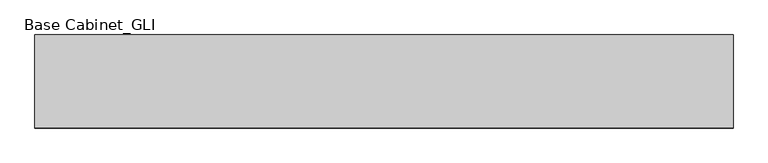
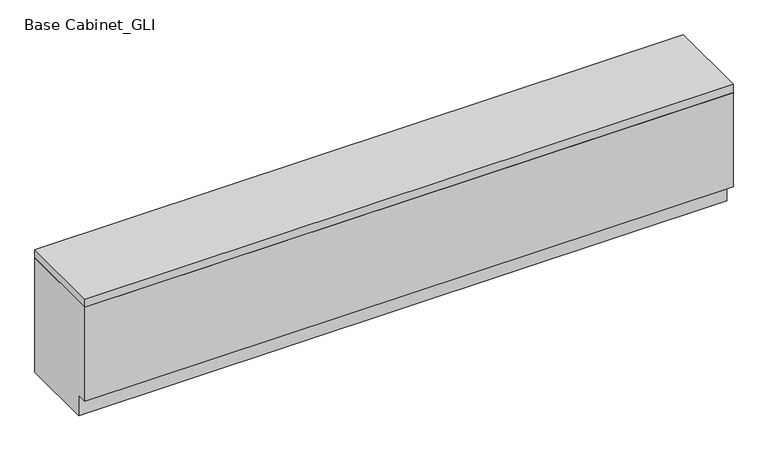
"""IFC4 building model written with IfcOpenShell, lengths in millimetres: proxy geometry, Base Cabinet_GLI : 900h x400d."""

from ifc_helpers import new_model, si_unit, frame, origin, place, context, project, spatial, polyline, outline, extrude, source, transform, mapped, element, save


def base_cabinet_gli_9e925c9e(model_context):
    return source(origin(), model_context, "Body", "SweptSolid", [
        extrude(outline(polyline([(-400.0, 100.0), (-400.0, 560.0), (0.0, 560.0), (0.0, 0.0), (-350.0, 0.0), (-350.0, 100.0), (-400.0, 100.0)])), frame((0.0, 0.0, 0.0), z_axis=(1.0, 0.0, 0.0), x_axis=(0.0, 1.0, 0.0)), (0.0, 0.0, 1.0), 3000.0),
        extrude(outline(polyline([(3000.0, 0.0), (3000.0, -400.0), (0.0, -400.0), (0.0, 0.0), (3000.0, 0.0)])), frame((0.0, 0.0, 560.0), z_axis=(0.0, 0.0, 1.0), x_axis=(1.0, 0.0, 0.0)), (0.0, 0.0, 1.0), 40.0),
    ])


if __name__ == "__main__":
    model = new_model("IFC4")
    model_context = context("Model", 3, world=origin())
    ifc_project = project(units=[si_unit("LENGTHUNIT", "METRE", prefix="MILLI")], contexts=[model_context])
    site = spatial("IfcSite", under=ifc_project)
    building = spatial("IfcBuilding", under=site)
    placement = place(None, origin())
    base_cabinet_gli_shape = base_cabinet_gli_9e925c9e(model_context)
    element("IfcBuildingElementProxy", 1, Name="Base Cabinet_GLI : 900h x400d", ObjectType="Base Cabinet_GLI : 900h x400d", at=placement, inside=building, context=model_context, shape_type="MappedRepresentation", body=[
        mapped(base_cabinet_gli_shape, transform((0.0, 0.0, 0.0), x_axis=(1.0, 0.0, 0.0), y_axis=(0.0, 1.0, 0.0), z_axis=(0.0, 0.0, 1.0))),
    ])
    save(model, "model.ifc")
